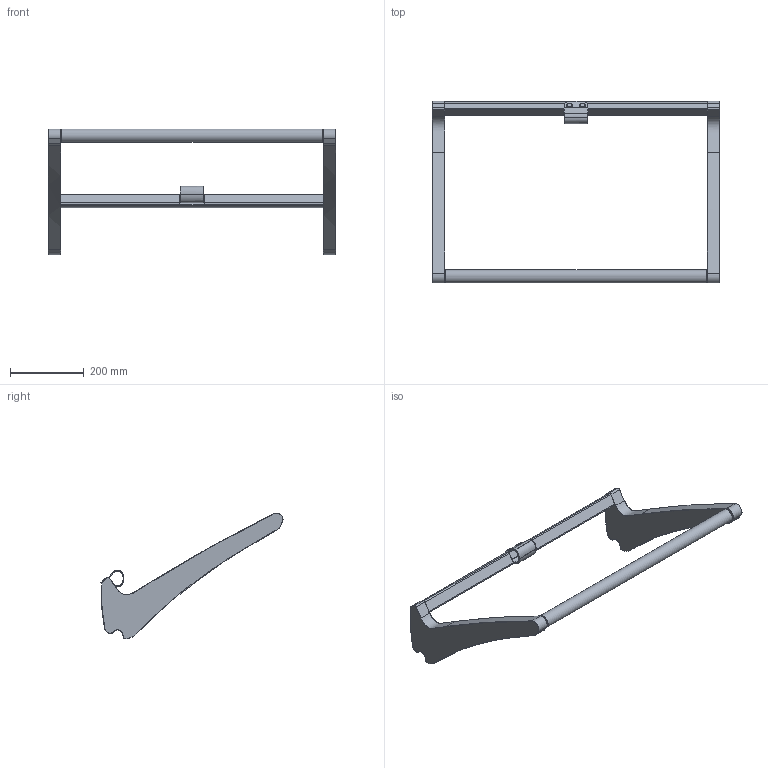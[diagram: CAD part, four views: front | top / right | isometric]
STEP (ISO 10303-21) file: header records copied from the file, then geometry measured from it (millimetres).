
FILE_DESCRIPTION(/* description */ (''),/* implementation_level */ '2;1');
FILE_NAME(/* name */ 'Eternal_Creek_3D_Model_REED_Pull_Up_Bar.step',/* time_stamp */ '2025-10-09T17:02:55+03:00',/* author */ (''),/* organization */ (''),/* preprocessor_version */ 'ST-DEVELOPER v20.1',/* originating_system */ 'Autodesk Translation Framework v14.17.0.0',/* authorisation */ '');
FILE_SCHEMA (('AUTOMOTIVE_DESIGN { 1 0 10303 214 3 1 1 }'));
Length unit declared in the file: millimetre
Products named in the file (8): 3D EXPORT - S - KOPĖ - SKER V04; SIDES; SIDE - LEFT; SIDE - RIGHT; BAR; STRINGER; METAL RINGS; STRAP
Assembly tree (7 placements, depth 3):
  3D EXPORT - S - KOPĖ - SKER V04
    SIDES
      SIDE - LEFT
      SIDE - RIGHT
    BAR
    STRINGER
    METAL RINGS
    STRAP
Bounding box: 783 x 495.24 x 342.35 mm (x, y, z)
Volume: 4089280.8 mm3; surface area: 448200.8 mm2
Topology: 9 solids, 9 shells, 303 faces, 688 edges, 415 vertices
Faces by surface type: cylinder 102, bspline 100, plane 69, torus 32
Full cylindrical faces by diameter (mm): 2.5 x2, 15 x2, 32 x4, 35 x2, 36 x1
Entity records: 12586 total; most frequent: CARTESIAN_POINT 5918, ORIENTED_EDGE 1376, DIRECTION 1302, EDGE_CURVE 688, AXIS2_PLACEMENT_3D 526, VERTEX_POINT 415, EDGE_LOOP 319, FACE_OUTER_BOUND 303
